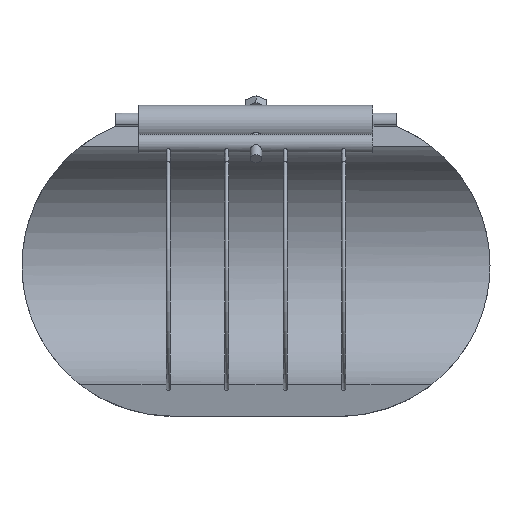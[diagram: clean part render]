
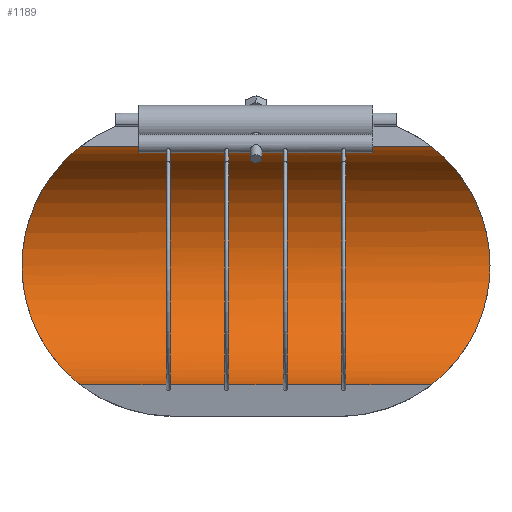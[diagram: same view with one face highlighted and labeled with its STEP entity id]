
A CAD part, front view. The second image highlights one B-rep face of the part: STEP entity #1189.
In plain terms, the highlighted cylindrical face has radius 62.5 mm (diameter 125 mm), a partial arc.
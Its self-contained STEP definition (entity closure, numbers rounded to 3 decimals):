
#125=FACE_OUTER_BOUND('',#203,.T.);
#203=EDGE_LOOP('',(#1060,#1061,#1062,#1063,#1064,#1065,#1066,#1067,#1068,
#1069));
#254=B_SPLINE_CURVE_WITH_KNOTS('',3,(#2670,#2671,#2672,#2673,#2674,#2675,
#2676,#2677,#2678,#2679,#2680,#2681,#2682,#2683,#2684,#2685,#2686,#2687),
 .UNSPECIFIED.,.F.,.F.,(4,2,2,2,2,2,2,2,4),(21.308,21.492,
22.775,24.059,25.342,26.585,27.827,
29.07,30.312),.UNSPECIFIED.);
#255=B_SPLINE_CURVE_WITH_KNOTS('',3,(#2688,#2689,#2690,#2691,#2692,#2693,
#2694,#2695,#2696,#2697,#2698,#2699,#2700,#2701,#2702,#2703,#2704,#2705),
 .UNSPECIFIED.,.F.,.F.,(4,2,2,2,2,2,2,2,4),(30.312,31.555,
32.797,34.04,35.282,36.566,37.849,
39.133,39.316),.UNSPECIFIED.);
#260=B_SPLINE_CURVE_WITH_KNOTS('',3,(#2817,#2818,#2819,#2820,#2821,#2822,
#2823,#2824,#2825,#2826,#2827,#2828,#2829,#2830,#2831,#2832,#2833,#2834),
 .UNSPECIFIED.,.F.,.F.,(4,2,2,2,2,2,2,2,4),(1.1,1.283,
2.567,3.85,5.134,6.376,7.619,
8.862,10.104),.UNSPECIFIED.);
#261=B_SPLINE_CURVE_WITH_KNOTS('',3,(#2836,#2837,#2838,#2839,#2840,#2841,
#2842,#2843,#2844,#2845,#2846,#2847,#2848,#2849,#2850,#2851,#2852,#2853),
 .UNSPECIFIED.,.F.,.F.,(4,2,2,2,2,2,2,2,4),(10.104,11.347,
12.589,13.832,15.074,16.358,17.641,
18.925,19.108),.UNSPECIFIED.);
#338=LINE('',#1983,#399);
#339=LINE('',#1986,#400);
#340=LINE('',#1989,#401);
#341=LINE('',#1991,#402);
#342=LINE('',#1992,#403);
#386=LINE('',#2895,#447);
#399=VECTOR('',#1398,10.);
#400=VECTOR('',#1401,10.);
#401=VECTOR('',#1404,10.);
#402=VECTOR('',#1407,10.);
#403=VECTOR('',#1408,10.);
#447=VECTOR('',#1648,10.);
#475=VERTEX_POINT('',#1971);
#477=VERTEX_POINT('',#1976);
#479=VERTEX_POINT('',#1980);
#480=VERTEX_POINT('',#1982);
#481=VERTEX_POINT('',#1985);
#482=VERTEX_POINT('',#1988);
#552=VERTEX_POINT('',#2667);
#553=VERTEX_POINT('',#2669);
#558=VERTEX_POINT('',#2816);
#559=VERTEX_POINT('',#2835);
#600=EDGE_CURVE('',#480,#479,#338,.T.);
#602=EDGE_CURVE('',#481,#480,#339,.T.);
#604=EDGE_CURVE('',#482,#481,#340,.T.);
#606=EDGE_CURVE('',#475,#482,#341,.T.);
#607=EDGE_CURVE('',#477,#475,#342,.T.);
#725=EDGE_CURVE('',#552,#553,#254,.T.);
#726=EDGE_CURVE('',#553,#479,#255,.T.);
#731=EDGE_CURVE('',#477,#558,#260,.T.);
#732=EDGE_CURVE('',#558,#559,#261,.T.);
#736=EDGE_CURVE('',#552,#559,#386,.T.);
#1060=ORIENTED_EDGE('',*,*,#731,.F.);
#1061=ORIENTED_EDGE('',*,*,#607,.T.);
#1062=ORIENTED_EDGE('',*,*,#606,.T.);
#1063=ORIENTED_EDGE('',*,*,#604,.T.);
#1064=ORIENTED_EDGE('',*,*,#602,.T.);
#1065=ORIENTED_EDGE('',*,*,#600,.T.);
#1066=ORIENTED_EDGE('',*,*,#726,.F.);
#1067=ORIENTED_EDGE('',*,*,#725,.F.);
#1068=ORIENTED_EDGE('',*,*,#736,.T.);
#1069=ORIENTED_EDGE('',*,*,#732,.F.);
#1130=CYLINDRICAL_SURFACE('',#1337,62.5);
#1189=ADVANCED_FACE('',(#125),#1130,.F.);
#1337=AXIS2_PLACEMENT_3D('',#2894,#1646,#1647);
#1398=DIRECTION('',(1.,0.,0.));
#1401=DIRECTION('',(1.,0.,0.));
#1404=DIRECTION('',(1.,0.,0.));
#1407=DIRECTION('',(1.,0.,0.));
#1408=DIRECTION('',(1.,0.,0.));
#1646=DIRECTION('center_axis',(1.,0.,0.));
#1647=DIRECTION('ref_axis',(0.,1.,0.));
#1648=DIRECTION('',(-1.,0.,0.));
#1971=CARTESIAN_POINT('',(-45.375,10.853,-61.55));
#1976=CARTESIAN_POINT('',(-90.785,10.853,-61.55));
#1980=CARTESIAN_POINT('',(90.785,10.853,-61.55));
#1982=CARTESIAN_POINT('',(45.375,10.853,-61.55));
#1983=CARTESIAN_POINT('',(0.,10.853,-61.55));
#1985=CARTESIAN_POINT('',(15.125,10.853,-61.55));
#1986=CARTESIAN_POINT('',(0.,10.853,-61.55));
#1988=CARTESIAN_POINT('',(-15.125,10.853,-61.55));
#1989=CARTESIAN_POINT('',(0.,10.853,-61.55));
#1991=CARTESIAN_POINT('',(0.,10.853,-61.55));
#1992=CARTESIAN_POINT('',(0.,10.853,-61.55));
#2667=CARTESIAN_POINT('',(90.785,10.853,61.55));
#2669=CARTESIAN_POINT('',(121.,62.5,0.));
#2670=CARTESIAN_POINT('Ctrl Pts',(90.785,10.853,61.55));
#2671=CARTESIAN_POINT('Ctrl Pts',(90.92,11.444,61.446));
#2672=CARTESIAN_POINT('Ctrl Pts',(91.065,12.033,61.334));
#2673=CARTESIAN_POINT('Ctrl Pts',(92.297,16.722,60.367));
#2674=CARTESIAN_POINT('Ctrl Pts',(93.832,20.692,59.117));
#2675=CARTESIAN_POINT('Ctrl Pts',(97.352,28.231,55.911));
#2676=CARTESIAN_POINT('Ctrl Pts',(99.335,31.805,53.951));
#2677=CARTESIAN_POINT('Ctrl Pts',(103.336,38.428,49.453));
#2678=CARTESIAN_POINT('Ctrl Pts',(105.352,41.475,46.913));
#2679=CARTESIAN_POINT('Ctrl Pts',(109.046,46.826,41.562));
#2680=CARTESIAN_POINT('Ctrl Pts',(110.87,49.345,38.567));
#2681=CARTESIAN_POINT('Ctrl Pts',(114.231,53.862,31.956));
#2682=CARTESIAN_POINT('Ctrl Pts',(115.767,55.861,28.34));
#2683=CARTESIAN_POINT('Ctrl Pts',(118.309,59.125,20.683));
#2684=CARTESIAN_POINT('Ctrl Pts',(119.317,60.394,16.632));
#2685=CARTESIAN_POINT('Ctrl Pts',(120.663,62.082,8.362));
#2686=CARTESIAN_POINT('Ctrl Pts',(121.,62.5,4.142));
#2687=CARTESIAN_POINT('Ctrl Pts',(121.,62.5,0.));
#2688=CARTESIAN_POINT('Ctrl Pts',(121.,62.5,0.));
#2689=CARTESIAN_POINT('Ctrl Pts',(121.,62.5,-4.142));
#2690=CARTESIAN_POINT('Ctrl Pts',(120.663,62.082,-8.362));
#2691=CARTESIAN_POINT('Ctrl Pts',(119.317,60.394,-16.632));
#2692=CARTESIAN_POINT('Ctrl Pts',(118.309,59.125,-20.683));
#2693=CARTESIAN_POINT('Ctrl Pts',(115.767,55.861,-28.34));
#2694=CARTESIAN_POINT('Ctrl Pts',(114.231,53.862,-31.956));
#2695=CARTESIAN_POINT('Ctrl Pts',(110.87,49.345,-38.567));
#2696=CARTESIAN_POINT('Ctrl Pts',(109.046,46.826,-41.562));
#2697=CARTESIAN_POINT('Ctrl Pts',(105.352,41.475,-46.913));
#2698=CARTESIAN_POINT('Ctrl Pts',(103.336,38.428,-49.453));
#2699=CARTESIAN_POINT('Ctrl Pts',(99.335,31.805,-53.951));
#2700=CARTESIAN_POINT('Ctrl Pts',(97.352,28.231,-55.911));
#2701=CARTESIAN_POINT('Ctrl Pts',(93.832,20.692,-59.117));
#2702=CARTESIAN_POINT('Ctrl Pts',(92.297,16.722,-60.367));
#2703=CARTESIAN_POINT('Ctrl Pts',(91.065,12.033,-61.334));
#2704=CARTESIAN_POINT('Ctrl Pts',(90.92,11.444,-61.446));
#2705=CARTESIAN_POINT('Ctrl Pts',(90.785,10.853,-61.55));
#2816=CARTESIAN_POINT('',(-121.,62.5,0.));
#2817=CARTESIAN_POINT('Ctrl Pts',(-90.785,10.853,-61.55));
#2818=CARTESIAN_POINT('Ctrl Pts',(-90.92,11.444,-61.446));
#2819=CARTESIAN_POINT('Ctrl Pts',(-91.065,12.033,-61.334));
#2820=CARTESIAN_POINT('Ctrl Pts',(-92.297,16.722,-60.367));
#2821=CARTESIAN_POINT('Ctrl Pts',(-93.832,20.692,-59.117));
#2822=CARTESIAN_POINT('Ctrl Pts',(-97.352,28.231,-55.911));
#2823=CARTESIAN_POINT('Ctrl Pts',(-99.335,31.805,-53.951));
#2824=CARTESIAN_POINT('Ctrl Pts',(-103.336,38.428,-49.453));
#2825=CARTESIAN_POINT('Ctrl Pts',(-105.352,41.475,-46.913));
#2826=CARTESIAN_POINT('Ctrl Pts',(-109.046,46.826,-41.562));
#2827=CARTESIAN_POINT('Ctrl Pts',(-110.87,49.345,-38.567));
#2828=CARTESIAN_POINT('Ctrl Pts',(-114.231,53.862,-31.956));
#2829=CARTESIAN_POINT('Ctrl Pts',(-115.767,55.861,-28.34));
#2830=CARTESIAN_POINT('Ctrl Pts',(-118.309,59.125,-20.683));
#2831=CARTESIAN_POINT('Ctrl Pts',(-119.317,60.394,-16.632));
#2832=CARTESIAN_POINT('Ctrl Pts',(-120.663,62.082,-8.362));
#2833=CARTESIAN_POINT('Ctrl Pts',(-121.,62.5,-4.142));
#2834=CARTESIAN_POINT('Ctrl Pts',(-121.,62.5,0.));
#2835=CARTESIAN_POINT('',(-90.785,10.853,61.55));
#2836=CARTESIAN_POINT('Ctrl Pts',(-121.,62.5,0.));
#2837=CARTESIAN_POINT('Ctrl Pts',(-121.,62.5,4.142));
#2838=CARTESIAN_POINT('Ctrl Pts',(-120.663,62.082,8.362));
#2839=CARTESIAN_POINT('Ctrl Pts',(-119.317,60.394,16.632));
#2840=CARTESIAN_POINT('Ctrl Pts',(-118.309,59.125,20.683));
#2841=CARTESIAN_POINT('Ctrl Pts',(-115.767,55.861,28.34));
#2842=CARTESIAN_POINT('Ctrl Pts',(-114.231,53.862,31.956));
#2843=CARTESIAN_POINT('Ctrl Pts',(-110.87,49.345,38.567));
#2844=CARTESIAN_POINT('Ctrl Pts',(-109.046,46.826,41.562));
#2845=CARTESIAN_POINT('Ctrl Pts',(-105.352,41.475,46.913));
#2846=CARTESIAN_POINT('Ctrl Pts',(-103.336,38.428,49.453));
#2847=CARTESIAN_POINT('Ctrl Pts',(-99.335,31.805,53.951));
#2848=CARTESIAN_POINT('Ctrl Pts',(-97.352,28.231,55.911));
#2849=CARTESIAN_POINT('Ctrl Pts',(-93.832,20.692,59.117));
#2850=CARTESIAN_POINT('Ctrl Pts',(-92.297,16.722,60.367));
#2851=CARTESIAN_POINT('Ctrl Pts',(-91.065,12.033,61.334));
#2852=CARTESIAN_POINT('Ctrl Pts',(-90.92,11.444,61.446));
#2853=CARTESIAN_POINT('Ctrl Pts',(-90.785,10.853,61.55));
#2894=CARTESIAN_POINT('Origin',(0.,0.,0.));
#2895=CARTESIAN_POINT('',(0.,10.853,61.55));
